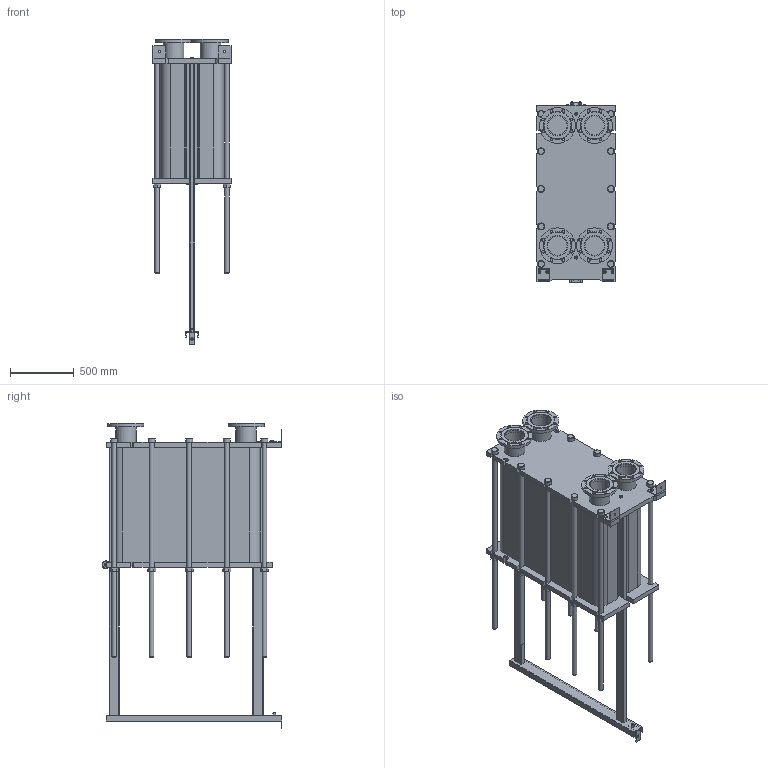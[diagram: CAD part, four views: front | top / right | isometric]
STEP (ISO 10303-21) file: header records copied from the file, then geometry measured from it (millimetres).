
FILE_DESCRIPTION(/* description */ (''),/* implementation_level */ '2;1');
FILE_NAME(/* name */ 'C:\Users\zhuro\Desktop\ENCO\TO\ЭН-041\ЭН-0,5-041-260-1.stp',/* time_stamp */ '2022-06-06T11:10:34+03:00',/* author */ ('zhuro'),/* organization */ (''),/* preprocessor_version */ 'ST-DEVELOPER v18.1',/* originating_system */ 'Autodesk Inventor 2022',/* authorisation */ '');
FILE_SCHEMA (('AUTOMOTIVE_DESIGN { 1 0 10303 214 3 1 1 }'));
Length unit declared in the file: millimetre
Products named in the file (1): ЭН-0,5-041-260-1
Bounding box: 610 x 1406.5 x 2390 mm (x, y, z)
Volume: 596223000.4 mm3; surface area: 12552379.9 mm2
Topology: 52 solids, 52 shells, 711 faces, 1696 edges, 1094 vertices
Faces by surface type: plane 487, cylinder 177, cone 41, torus 6
Full cylindrical faces by diameter (mm): 8 x4, 10 x2, 16 x8, 18 x3, 22 x32, 36 x24, 50 x1, 54 x10, 60 x12, 151 x4, 161 x8, 280 x4
Entity records: 22667 total; most frequent: CARTESIAN_POINT 5230, DIRECTION 3644, ORIENTED_EDGE 3392, EDGE_CURVE 1696, AXIS2_PLACEMENT_3D 1272, LINE 1100, VECTOR 1100, VERTEX_POINT 1094
